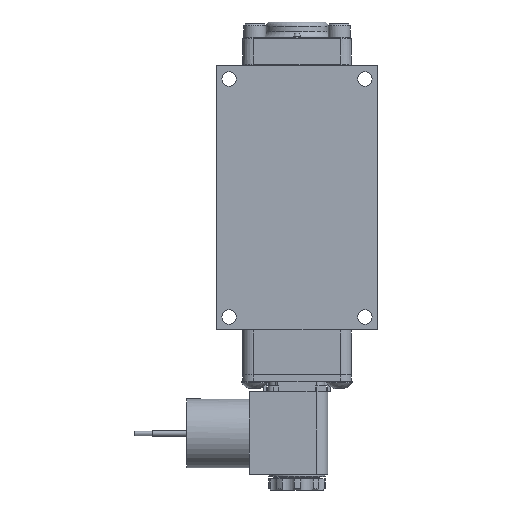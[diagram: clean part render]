
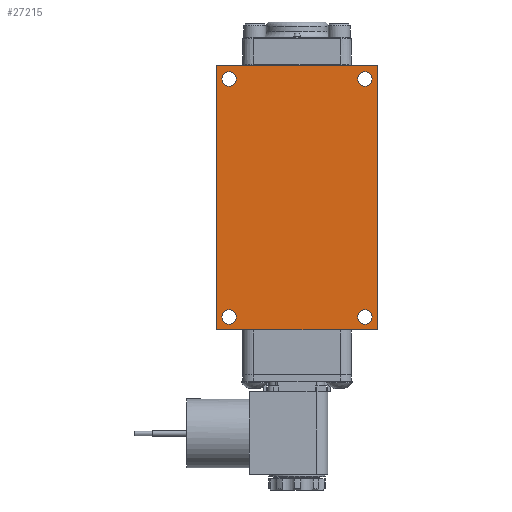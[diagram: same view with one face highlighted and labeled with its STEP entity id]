
A CAD part, front view. The second image highlights one B-rep face of the part: STEP entity #27215.
In plain terms, the highlighted planar face has unit normal (0, -1, 0).
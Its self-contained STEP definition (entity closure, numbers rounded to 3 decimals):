
#836=LINE('',#39155,#2671);
#852=LINE('',#39218,#2687);
#1074=LINE('',#40436,#2909);
#1316=LINE('',#41860,#3151);
#2671=VECTOR('',#31547,5.715);
#2687=VECTOR('',#31599,5.715);
#2909=VECTOR('',#32071,9.421);
#3151=VECTOR('',#32463,9.421);
#4986=PLANE('',#29011);
#5698=FACE_BOUND('',#8186,.T.);
#5699=FACE_BOUND('',#8187,.T.);
#5700=FACE_BOUND('',#8188,.T.);
#5701=FACE_BOUND('',#8189,.T.);
#6381=FACE_OUTER_BOUND('',#8185,.T.);
#8185=EDGE_LOOP('',(#19029,#19030,#19031,#19032));
#8186=EDGE_LOOP('',(#19033));
#8187=EDGE_LOOP('',(#19034));
#8188=EDGE_LOOP('',(#19035));
#8189=EDGE_LOOP('',(#19036));
#10024=CIRCLE('',#28982,0.258);
#10025=CIRCLE('',#28984,0.258);
#10026=CIRCLE('',#28986,0.258);
#10027=CIRCLE('',#28988,0.258);
#11211=VERTEX_POINT('',#39152);
#11212=VERTEX_POINT('',#39154);
#11240=VERTEX_POINT('',#39215);
#11241=VERTEX_POINT('',#39217);
#11799=VERTEX_POINT('',#42589);
#11800=VERTEX_POINT('',#42592);
#11801=VERTEX_POINT('',#42595);
#11802=VERTEX_POINT('',#42598);
#13721=EDGE_CURVE('',#11211,#11212,#836,.T.);
#13752=EDGE_CURVE('',#11240,#11241,#852,.T.);
#14084=EDGE_CURVE('',#11241,#11211,#1074,.T.);
#14420=EDGE_CURVE('',#11212,#11240,#1316,.T.);
#14537=EDGE_CURVE('',#11799,#11799,#10024,.T.);
#14538=EDGE_CURVE('',#11800,#11800,#10025,.T.);
#14539=EDGE_CURVE('',#11801,#11801,#10026,.T.);
#14540=EDGE_CURVE('',#11802,#11802,#10027,.T.);
#19029=ORIENTED_EDGE('',*,*,#14084,.F.);
#19030=ORIENTED_EDGE('',*,*,#13752,.F.);
#19031=ORIENTED_EDGE('',*,*,#14420,.F.);
#19032=ORIENTED_EDGE('',*,*,#13721,.F.);
#19033=ORIENTED_EDGE('',*,*,#14537,.T.);
#19034=ORIENTED_EDGE('',*,*,#14538,.T.);
#19035=ORIENTED_EDGE('',*,*,#14539,.T.);
#19036=ORIENTED_EDGE('',*,*,#14540,.T.);
#27215=ADVANCED_FACE('',(#6381,#5698,#5699,#5700,#5701),#4986,.F.);
#28982=AXIS2_PLACEMENT_3D('',#42590,#32762,#32763);
#28984=AXIS2_PLACEMENT_3D('',#42593,#32766,#32767);
#28986=AXIS2_PLACEMENT_3D('',#42596,#32770,#32771);
#28988=AXIS2_PLACEMENT_3D('',#42599,#32774,#32775);
#29011=AXIS2_PLACEMENT_3D('',#42630,#32820,#32821);
#31547=DIRECTION('',(1.,0.,0.));
#31599=DIRECTION('',(-1.,0.,0.));
#32071=DIRECTION('',(0.,0.,1.));
#32463=DIRECTION('',(0.,0.,-1.));
#32762=DIRECTION('center_axis',(0.,1.,0.));
#32763=DIRECTION('ref_axis',(-1.,0.,0.));
#32766=DIRECTION('center_axis',(0.,1.,0.));
#32767=DIRECTION('ref_axis',(-1.,0.,0.));
#32770=DIRECTION('center_axis',(0.,1.,0.));
#32771=DIRECTION('ref_axis',(-1.,0.,0.));
#32774=DIRECTION('center_axis',(0.,1.,0.));
#32775=DIRECTION('ref_axis',(-1.,0.,0.));
#32820=DIRECTION('center_axis',(0.,1.,0.));
#32821=DIRECTION('ref_axis',(0.,0.,1.));
#39152=CARTESIAN_POINT('',(-2.858,-1.636,4.71));
#39154=CARTESIAN_POINT('',(2.858,-1.636,4.71));
#39155=CARTESIAN_POINT('',(-2.858,-1.636,4.71));
#39215=CARTESIAN_POINT('',(2.858,-1.636,-4.71));
#39217=CARTESIAN_POINT('',(-2.858,-1.636,-4.71));
#39218=CARTESIAN_POINT('',(2.858,-1.636,-4.71));
#40436=CARTESIAN_POINT('',(-2.858,-1.636,-4.71));
#41860=CARTESIAN_POINT('',(2.858,-1.636,4.71));
#42589=CARTESIAN_POINT('',(-2.163,-1.636,-4.247));
#42590=CARTESIAN_POINT('Origin',(-2.421,-1.636,-4.247));
#42592=CARTESIAN_POINT('',(-2.163,-1.636,4.247));
#42593=CARTESIAN_POINT('Origin',(-2.421,-1.636,4.247));
#42595=CARTESIAN_POINT('',(2.678,-1.636,-4.247));
#42596=CARTESIAN_POINT('Origin',(2.421,-1.636,-4.247));
#42598=CARTESIAN_POINT('',(2.678,-1.636,4.247));
#42599=CARTESIAN_POINT('Origin',(2.421,-1.636,4.247));
#42630=CARTESIAN_POINT('Origin',(0.,-1.636,0.));
